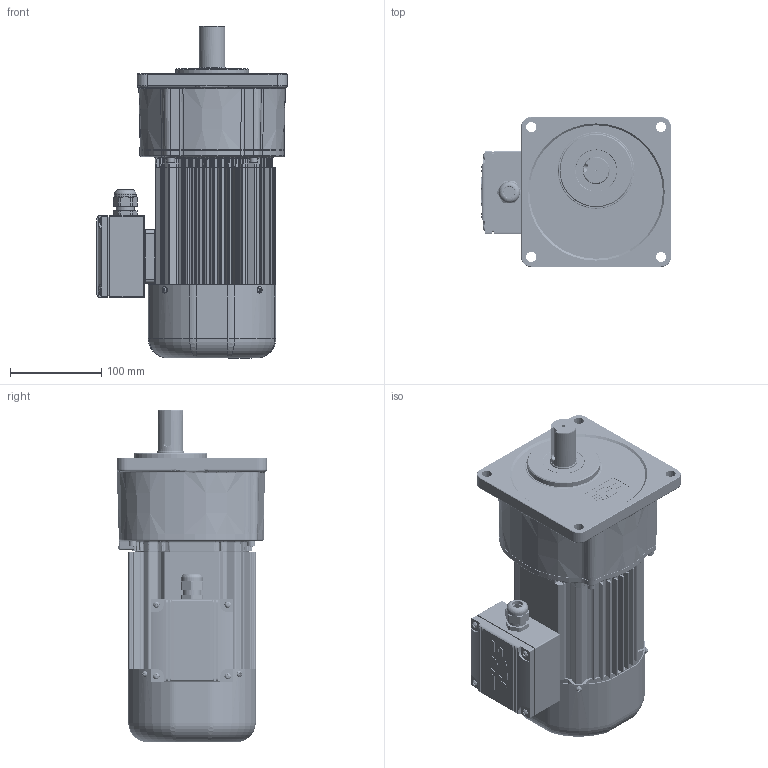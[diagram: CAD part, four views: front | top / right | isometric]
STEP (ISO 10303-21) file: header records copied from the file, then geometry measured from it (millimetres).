
FILE_DESCRIPTION(/* description */ (''),/* implementation_level */ '2;1');
FILE_NAME(/* name */ 'Z:\동력 3D 파일\PAK28_0.4kW_Brake_3D.stp',/* time_stamp */ '2021-11-09T08:45:14+09:00',/* author */ ('jaebok'),/* organization */ (''),/* preprocessor_version */ 'ST-DEVELOPER v18.1',/* originating_system */ 'Autodesk Inventor 2022',/* authorisation */ '');
FILE_SCHEMA (('AUTOMOTIVE_DESIGN { 1 0 10303 214 3 1 1 }'));
Products named in the file (1): 부품10
Bounding box: 208 x 164 x 363 mm (x, y, z)
Volume: 1967040.2 mm3; surface area: 634215.6 mm2
Topology: 3 solids, 26 shells, 3563 faces, 8835 edges, 5170 vertices
Faces by surface type: plane 1074, cylinder 990, bspline 826, torus 334, cone 215, sphere 124
Full cylindrical faces by diameter (mm): 1.5 x2, 2 x5, 3 x8, 3.242 x5, 3.25 x1, 3.3 x4, 3.6 x4, 3.8 x3, 4 x25, 4.2 x12, 4.917 x4, 5 x26, 5.5 x4, 5.8 x2, 5.9 x3, 6 x14, 6.4 x1, 6.5 x6, 7 x12, 7.9 x6, 8 x7, 8.5 x5, 8.7 x1, 10 x1, 12.5 x1, 15 x1, 18 x1, 19 x2, 20 x2, 21 x1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
Entity records: 140448 total; most frequent: CARTESIAN_POINT 57836, ORIENTED_EDGE 17110, DIRECTION 15829, EDGE_CURVE 8555, AXIS2_PLACEMENT_3D 6468, VERTEX_POINT 5164, EDGE_LOOP 3840, CIRCLE 3610
